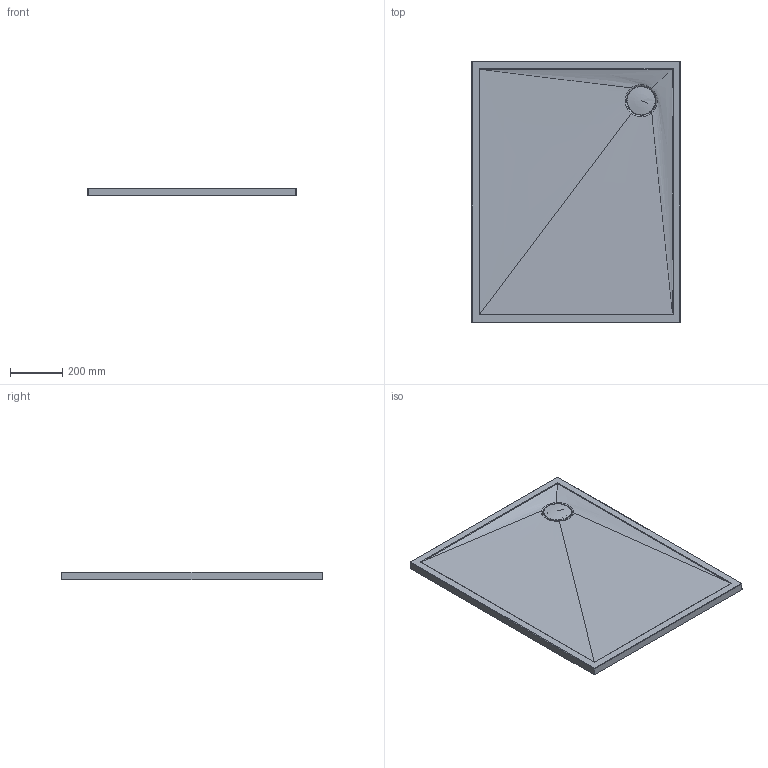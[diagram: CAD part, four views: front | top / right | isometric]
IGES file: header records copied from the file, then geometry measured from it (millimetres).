
Global section: file name: 576801d4-c269-43fa-9215-936c6e53a6bb; native system: unknown; preprocessor: unknown; author: unknown; organization: unknown; date: 20200320.104806; units: millimetre
Bounding box: 800 x 1000 x 30 mm (x, y, z)
Volume: 19979513.9 mm3; surface area: 1718426 mm2
Topology: 2 solids, 2 shells, 34 faces, 89 edges, 59 vertices
Faces by surface type: bspline 34
